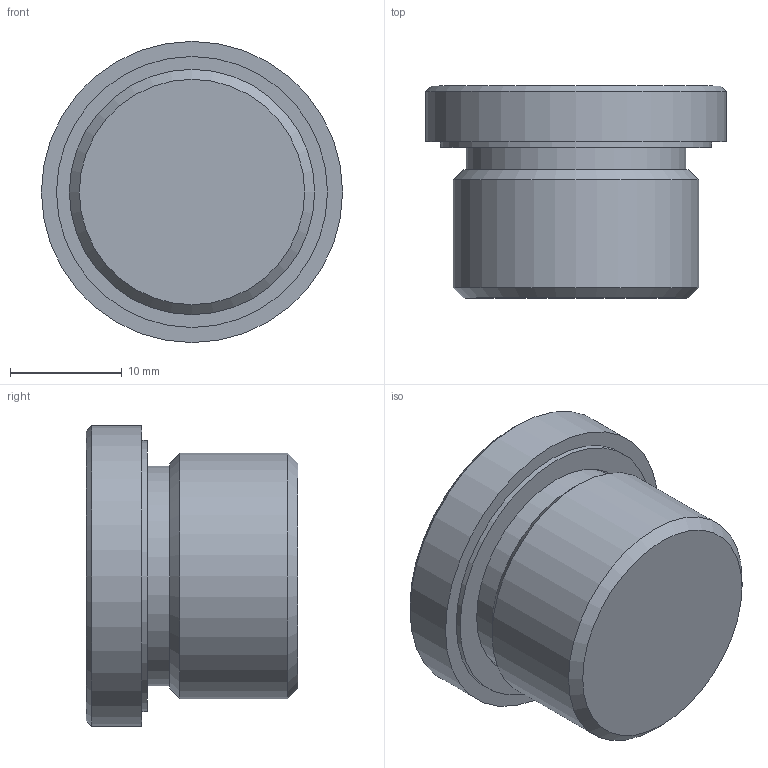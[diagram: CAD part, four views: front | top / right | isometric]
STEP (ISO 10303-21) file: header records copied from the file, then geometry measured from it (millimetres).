
FILE_DESCRIPTION( ( 'STEP AP203' ), '1' );
FILE_NAME( 'C:/Temp/Ganter_Step_05_03_2020/data/3_5/gn749/gn749_a/Threaded plug GN 749-M22x1,5-A.stp', '2020-03-12T13:41:34', ( 'License CC BY-ND 4.0' ), ( 'CADENAS' ), ' ', 'PARTsolutions', ' ' );
FILE_SCHEMA( ( 'CONFIG_CONTROL_DESIGN' ) );
Length unit declared in the file: millimetre
Products named in the file (1): _Threaded plug GN 749-M22x1,5-A
Bounding box: 27 x 19 x 27 mm (x, y, z)
Volume: 7311.8 mm3; surface area: 2916.1 mm2
Topology: 1 solids, 1 shells, 21 faces, 41 edges, 27 vertices
Faces by surface type: plane 13, cylinder 5, cone 3
Full cylindrical faces by diameter (mm): 19.7 x1, 20.1 x1, 22 x1, 24.3 x1, 27 x1
Entity records: 526 total; most frequent: DIRECTION 88, CARTESIAN_POINT 78, ORIENTED_EDGE 62, AXIS2_PLACEMENT_3D 35, EDGE_LOOP 34, EDGE_CURVE 31, FACE_OUTER_BOUND 26, VERTEX_POINT 25
